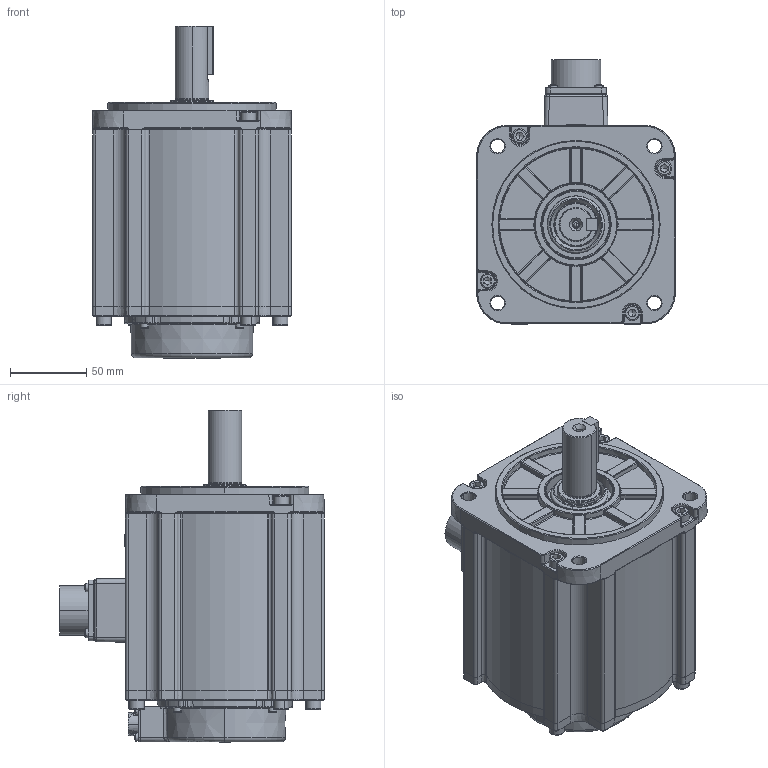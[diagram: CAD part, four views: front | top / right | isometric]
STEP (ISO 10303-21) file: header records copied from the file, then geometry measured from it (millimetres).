
FILE_DESCRIPTION (( 'STEP AP203' ), '1' );
FILE_NAME ('4031313-[][][][]_130µç»ú_DM1M-13A130[]8S_A0.STEP', '2020-06-22T01:05:15', ( '' ), ( '' ), 'SwSTEP 2.0', 'SolidWorks 2018', '' );
FILE_SCHEMA (( 'CONFIG_CONTROL_DESIGN' ));
Length unit declared in the file: millimetre
Products named in the file (1): 4031313-[][][][]_130萇儂_DM1M-13A130[]8S_A0
Bounding box: 130 x 173 x 217.1 mm (x, y, z)
Surface area: 154528.4 mm2 (no closed solid volume)
Topology: 0 solids, 54 shells, 1245 faces, 3743 edges, 2435 vertices
Faces by surface type: plane 411, cylinder 296, bspline 205, cone 162, torus 140, sphere 31
Entity records: 50459 total; most frequent: CARTESIAN_POINT 18753, DIRECTION 6514, ORIENTED_EDGE 6260, EDGE_CURVE 3689, AXIS2_PLACEMENT_3D 2490, VERTEX_POINT 2433, LINE 1534, VECTOR 1534
